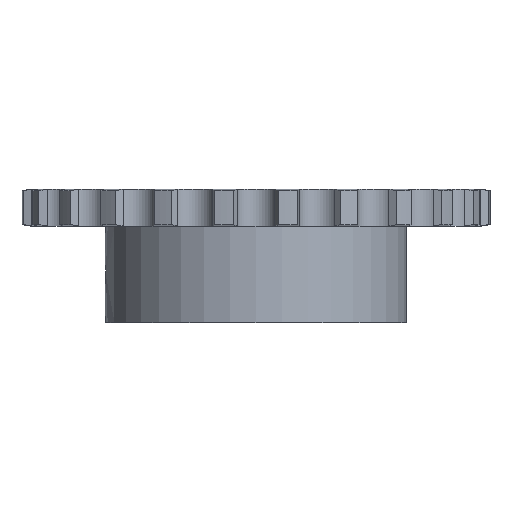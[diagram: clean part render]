
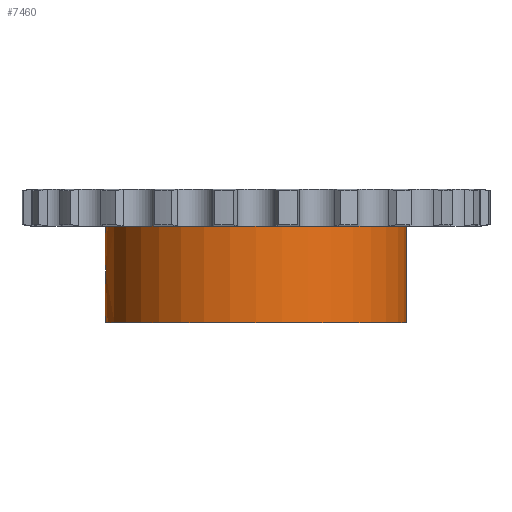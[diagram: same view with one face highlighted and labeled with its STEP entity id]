
A CAD part, front view. The second image highlights one B-rep face of the part: STEP entity #7460.
In plain terms, the highlighted cylindrical face has radius 45 mm (diameter 90 mm), a partial arc.
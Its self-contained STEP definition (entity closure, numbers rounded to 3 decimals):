
#1275=CARTESIAN_POINT('',(0.,0.,-5.55));
#1276=DIRECTION('',(0.,0.,1.));
#1277=DIRECTION('',(-1.,0.,0.));
#1278=AXIS2_PLACEMENT_3D('',#1275,#1276,#1277);
#3730=CARTESIAN_POINT('',(-45.,0.,
-17.));
#3753=DIRECTION('',(0.,0.,1.));
#3754=VECTOR('',#3753,28.9);
#3755=CARTESIAN_POINT('',(45.,0.,-34.45));
#3756=LINE('',#3755,#3754);
#3876=CARTESIAN_POINT('',(-45.,0.,
-17.));
#3877=CARTESIAN_POINT('',(-45.,-0.146,
-17.));
#3878=CARTESIAN_POINT('',(-44.999,-0.436,
-17.021));
#3879=CARTESIAN_POINT('',(-44.992,-0.866,
-17.113));
#3880=CARTESIAN_POINT('',(-44.982,-1.278,
-17.266));
#3881=CARTESIAN_POINT('',(-44.97,-1.662,
-17.475));
#3882=CARTESIAN_POINT('',(-44.955,-2.011,
-17.735));
#3883=CARTESIAN_POINT('',(-44.941,-2.317,
-18.04));
#3884=CARTESIAN_POINT('',(-44.926,-2.577,
-18.386));
#3885=CARTESIAN_POINT('',(-44.914,-2.784,
-18.766));
#3886=CARTESIAN_POINT('',(-44.904,-2.934,
-19.169));
#3887=CARTESIAN_POINT('',(-44.898,-3.023,
-19.586));
#3888=CARTESIAN_POINT('',(-44.897,-3.042,
-19.862));
#3889=CARTESIAN_POINT('',(-44.897,-3.042,
-20.));
#3894=DIRECTION('',(0.,0.,1.));
#3895=VECTOR('',#3894,11.45);
#3896=CARTESIAN_POINT('',(-45.,0.,
-17.));
#3897=LINE('',#3896,#3895);
#3901=DIRECTION('',(0.,0.,1.));
#3902=VECTOR('',#3901,11.45);
#3903=CARTESIAN_POINT('',(-45.,0.,-34.45));
#3904=LINE('',#3903,#3902);
#3908=CARTESIAN_POINT('',(-44.897,-3.042,
-20.));
#3909=CARTESIAN_POINT('',(-44.897,-3.042,
-20.11));
#3910=CARTESIAN_POINT('',(-44.898,-3.028,
-20.365));
#3911=CARTESIAN_POINT('',(-44.903,-2.953,
-20.764));
#3912=CARTESIAN_POINT('',(-44.913,-2.807,
-21.186));
#3913=CARTESIAN_POINT('',(-44.925,-2.597,
-21.584));
#3914=CARTESIAN_POINT('',(-44.94,-2.331,
-21.945));
#3915=CARTESIAN_POINT('',(-44.955,-2.014,
-22.264));
#3916=CARTESIAN_POINT('',(-44.97,-1.651,
-22.533));
#3917=CARTESIAN_POINT('',(-44.983,-1.25,
-22.747));
#3918=CARTESIAN_POINT('',(-44.993,-0.821,
-22.9));
#3919=CARTESIAN_POINT('',(-44.999,-0.4,
-22.983));
#3920=CARTESIAN_POINT('',(-45.,-0.124,
-23.));
#3921=CARTESIAN_POINT('',(-45.,0.,
-23.));
#3934=CARTESIAN_POINT('',(0.,0.,-34.45));
#3935=DIRECTION('',(0.,0.,-1.));
#3936=DIRECTION('',(1.,0.,0.));
#3937=AXIS2_PLACEMENT_3D('',#3934,#3935,#3936);
#4347=CARTESIAN_POINT('',(-45.,0.,-34.45));
#4348=CARTESIAN_POINT('',(45.,0.,-34.45));
#4349=VERTEX_POINT('',#4347);
#4350=VERTEX_POINT('',#4348);
#4351=CARTESIAN_POINT('',(45.,0.,-5.55));
#4352=VERTEX_POINT('',#4351);
#4353=CARTESIAN_POINT('',(-45.,0.,-5.55));
#4354=VERTEX_POINT('',#4353);
#4606=VERTEX_POINT('',#3730);
#4609=VERTEX_POINT('',#3889);
#4611=VERTEX_POINT('',#3921);
#7444=CARTESIAN_POINT('',(0.,0.,5.55));
#7445=DIRECTION('',(0.,0.,1.));
#7446=DIRECTION('',(1.,0.,0.));
#7447=AXIS2_PLACEMENT_3D('',#7444,#7445,#7446);
#7448=CYLINDRICAL_SURFACE('',#7447,45.);
#7449=ORIENTED_EDGE('',*,*,#7434,.F.);
#7450=ORIENTED_EDGE('',*,*,#7041,.T.);
#7451=ORIENTED_EDGE('',*,*,#5942,.T.);
#7452=ORIENTED_EDGE('',*,*,#7038,.F.);
#7454=ORIENTED_EDGE('',*,*,#7453,.T.);
#7455=ORIENTED_EDGE('',*,*,#7034,.T.);
#7457=ORIENTED_EDGE('',*,*,#7456,.F.);
#7458=EDGE_LOOP('',(#7449,#7450,#7451,#7452,#7454,#7455,#7457));
#7459=FACE_OUTER_BOUND('',#7458,.F.);
#7460=ADVANCED_FACE('',(#7459),#7448,.T.);
#1279=CIRCLE('',#1278,45.);
#3890=B_SPLINE_CURVE_WITH_KNOTS('',3,(#3876,#3877,#3878,#3879,#3880,#3881,#3882,
#3883,#3884,#3885,#3886,#3887,#3888,#3889),.UNSPECIFIED.,.F.,.F.,(4,1,1,1,1,1,1,
1,1,1,1,4),(0.,0.091,0.182,0.273,
0.364,0.455,0.545,0.636,
0.727,0.818,0.909,1.),.UNSPECIFIED.);
#3922=B_SPLINE_CURVE_WITH_KNOTS('',3,(#3908,#3909,#3910,#3911,#3912,#3913,#3914,
#3915,#3916,#3917,#3918,#3919,#3920,#3921),.UNSPECIFIED.,.F.,.F.,(4,1,1,1,1,1,1,
1,1,1,1,4),(0.,0.073,0.167,0.262,
0.356,0.45,0.545,0.639,
0.734,0.828,0.922,1.),.UNSPECIFIED.);
#3938=CIRCLE('',#3937,45.);
#5942=EDGE_CURVE('',#4354,#4352,#1279,.T.);
#7034=EDGE_CURVE('',#4349,#4611,#3904,.T.);
#7038=EDGE_CURVE('',#4350,#4352,#3756,.T.);
#7041=EDGE_CURVE('',#4606,#4354,#3897,.T.);
#7434=EDGE_CURVE('',#4606,#4609,#3890,.T.);
#7453=EDGE_CURVE('',#4350,#4349,#3938,.T.);
#7456=EDGE_CURVE('',#4609,#4611,#3922,.T.);
